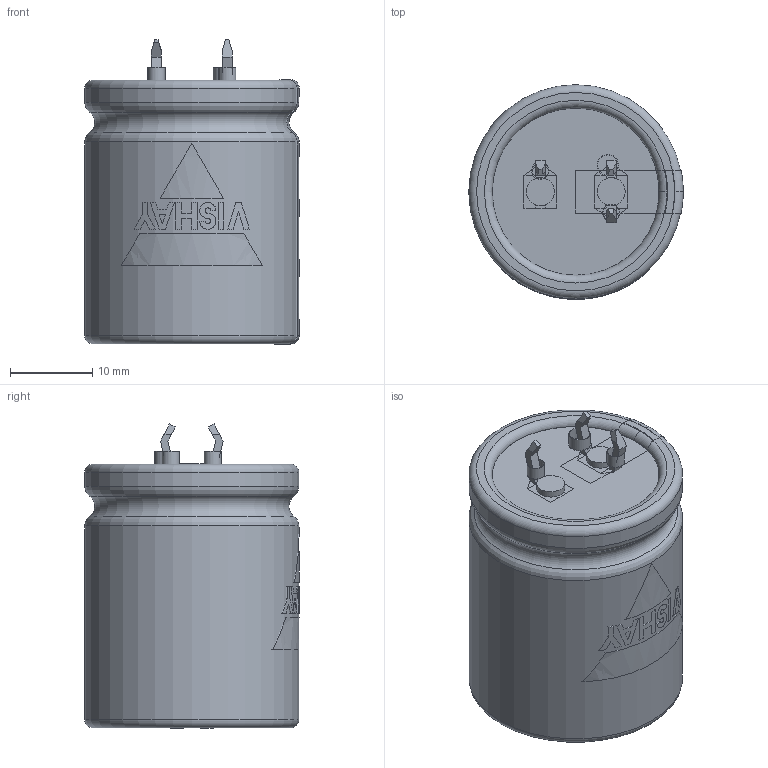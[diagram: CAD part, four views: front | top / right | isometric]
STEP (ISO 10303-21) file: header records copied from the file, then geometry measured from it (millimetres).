
FILE_DESCRIPTION(('FreeCAD Model'),'2;1');
FILE_NAME( 'C:/Users/Gebruiker/Documents/FreeCAD/SnapIn_25x30_3pin_4.0.step', '2020-11-12T21:08:31',('Author'),(''), 'Open CASCADE STEP processor 6.8','FreeCAD','Unknown');
FILE_SCHEMA(('AUTOMOTIVE_DESIGN_CC2 { 1 2 10303 214 -1 1 5 4 }'));
Length unit declared in the file: millimetre
Products named in the file (9): ASSEMBLY; TerminalPlus; Disc; BottomInsulation; Can3D; InkMinusBar; InkLogo; TerminalMinKP; PCBHolesKP
Assembly tree (8 placements, depth 2):
  ASSEMBLY
    TerminalPlus
    Disc
    BottomInsulation
    Can3D
    InkMinusBar
    InkLogo
    TerminalMinKP
    PCBHolesKP
Bounding box: 26.05 x 26.05 x 36.95 mm (x, y, z)
Volume: 19289.7 mm3; surface area: 9166.2 mm2
Topology: 17 solids, 17 shells, 209 faces, 508 edges, 331 vertices
Faces by surface type: plane 160, cylinder 31, torus 18
Full cylindrical faces by diameter (mm): 2 x2, 2.1 x2, 2.5 x1, 2.6 x1, 3.4 x2, 20.3 x1, 20.8 x2, 26 x2
Entity records: 21265 total; most frequent: CARTESIAN_POINT 9907, DIRECTION 1757, ORIENTED_EDGE 1016, PCURVE 1016, DEFINITIONAL_REPRESENTATION 1016, LINE 980, VECTOR 980, EDGE_CURVE 508
